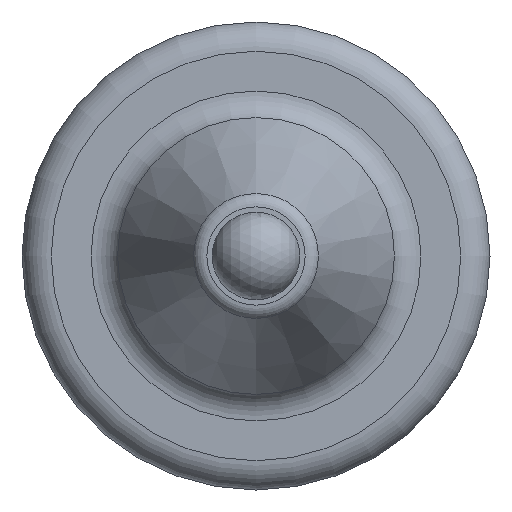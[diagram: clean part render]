
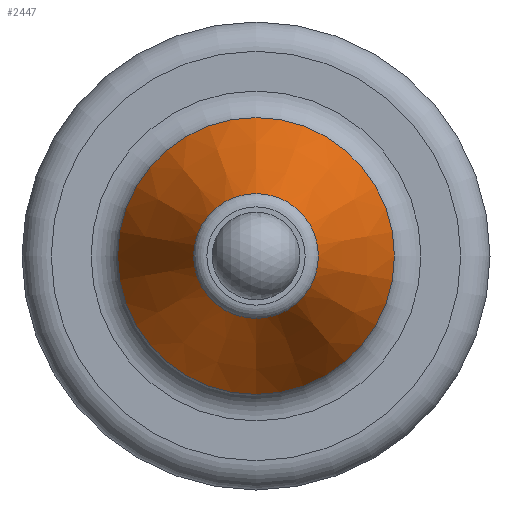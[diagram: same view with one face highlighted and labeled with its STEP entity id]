
A CAD part, left-side view. The second image highlights one B-rep face of the part: STEP entity #2447.
In plain terms, the highlighted conical face has half-angle 24.775 degrees and reference radius 5 mm.
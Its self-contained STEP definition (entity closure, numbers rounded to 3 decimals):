
#138 = EDGE_LOOP ( 'NONE', ( #475 ) ) ;
#216 = ORIENTED_EDGE ( 'NONE', *, *, #1627, .T. ) ;
#333 = CARTESIAN_POINT ( 'NONE',  ( -27.525, -8.856, -21.13 ) ) ;
#348 = DIRECTION ( 'NONE',  ( 0., 0., 1. ) ) ;
#452 = FACE_BOUND ( 'NONE', #2492, .T. ) ;
#474 = CARTESIAN_POINT ( 'NONE',  ( -21.315, -8.856, -21.13 ) ) ;
#475 = ORIENTED_EDGE ( 'NONE', *, *, #2014, .T. ) ;
#567 = CARTESIAN_POINT ( 'NONE',  ( -21.896, -8.856, -25.862 ) ) ;
#693 = DIRECTION ( 'NONE',  ( 0., 0., -1. ) ) ;
#861 = DIRECTION ( 'NONE',  ( -1., 0., 0. ) ) ;
#1100 = CIRCLE ( 'NONE', #1801, 2.134 ) ;
#1265 = CIRCLE ( 'NONE', #2058, 4.732 ) ;
#1373 = AXIS2_PLACEMENT_3D ( 'NONE', #474, #1937, #693 ) ;
#1399 = CARTESIAN_POINT ( 'NONE',  ( -27.525, -8.856, -18.996 ) ) ;
#1460 = FACE_OUTER_BOUND ( 'NONE', #138, .T. ) ;
#1479 = CARTESIAN_POINT ( 'NONE',  ( -21.896, -8.856, -21.13 ) ) ;
#1627 = EDGE_CURVE ( 'NONE', #2206, #2206, #1100, .T. ) ;
#1706 = VERTEX_POINT ( 'NONE', #567 ) ;
#1743 = CONICAL_SURFACE ( 'NONE', #1373, 5., 0.432 ) ;
#1801 = AXIS2_PLACEMENT_3D ( 'NONE', #333, #1990, #348 ) ;
#1937 = DIRECTION ( 'NONE',  ( 1., 0., 0. ) ) ;
#1990 = DIRECTION ( 'NONE',  ( 1., 0., 0. ) ) ;
#2014 = EDGE_CURVE ( 'NONE', #1706, #1706, #1265, .T. ) ;
#2058 = AXIS2_PLACEMENT_3D ( 'NONE', #1479, #861, #2096 ) ;
#2096 = DIRECTION ( 'NONE',  ( 0., 0., -1. ) ) ;
#2206 = VERTEX_POINT ( 'NONE', #1399 ) ;
#2447 = ADVANCED_FACE ( 'NONE', ( #452, #1460 ), #1743, .T. ) ;
#2492 = EDGE_LOOP ( 'NONE', ( #216 ) ) ;
